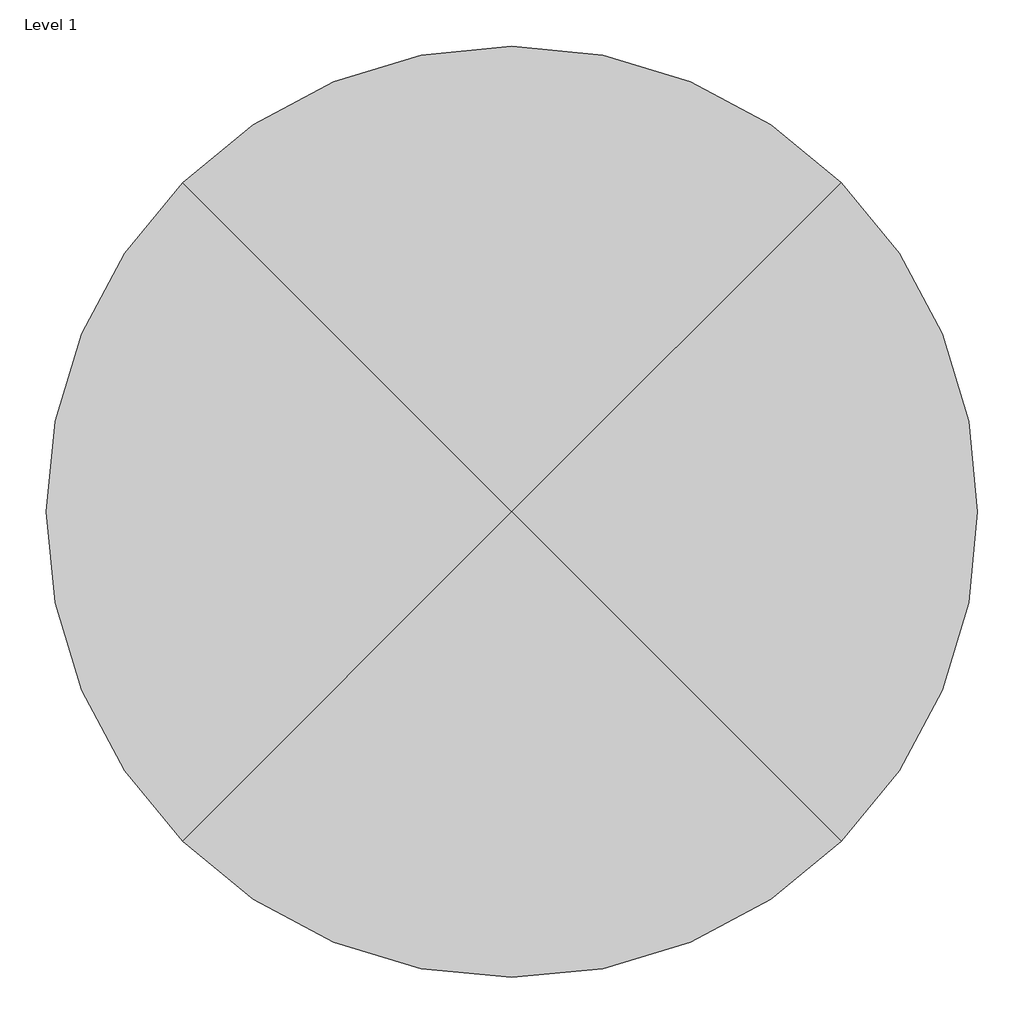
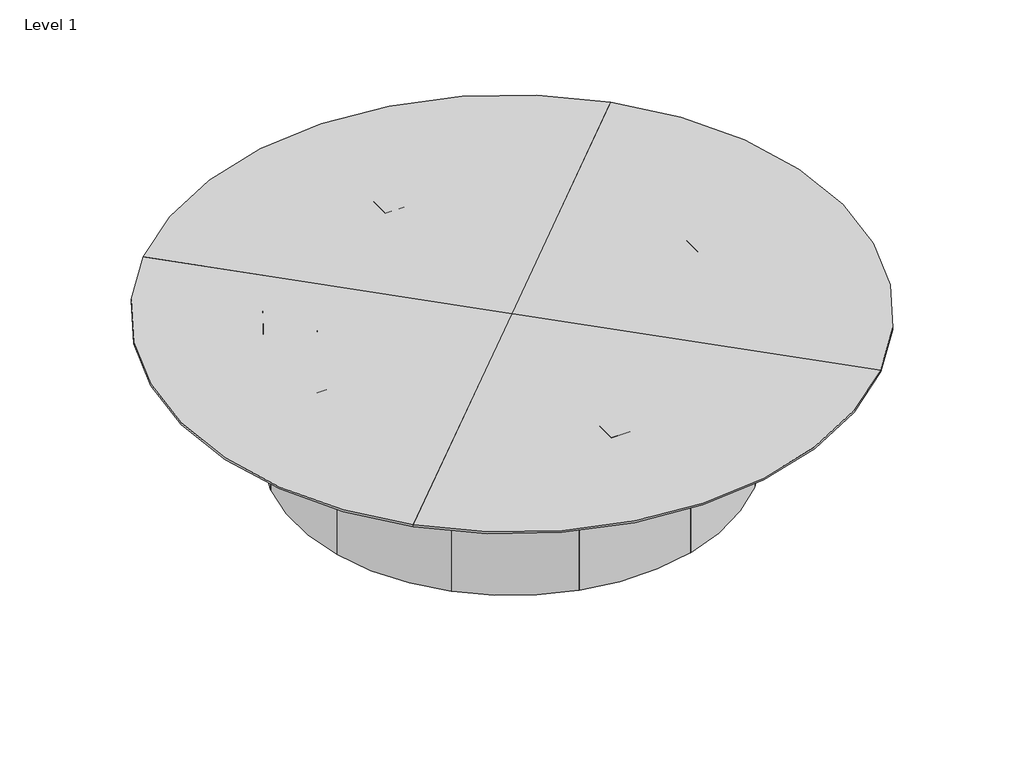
# One storey: 4 proxies.
"""IFC4 building model written with IfcOpenShell, lengths in millimetres."""

from ifc_helpers import new_model, si_unit, origin, place, context, project, spatial, transform, mapped, element, save
from components import generic_models_6417b330

model = new_model("IFC4")

# Units and contexts
model_context = context("Model", 3, world=origin())
ifc_project = project(units=[si_unit("LENGTHUNIT", "METRE", prefix="MILLI")], contexts=[model_context])

# Site, building, storey
site = spatial("IfcSite", under=ifc_project)
building = spatial("IfcBuilding", under=site)
storey = spatial("IfcBuildingStorey", under=building, Name="Level 1", Elevation=0.0)

# Proxies
placement = place(None, origin())
generic_models_shape = generic_models_6417b330(model_context)
element("IfcBuildingElementProxy", 1, Name="VIEWLINE^TABLE 1_4 PC ROUND-QUARTER ASSEMBLY_2", ObjectType="VIEWLINE^TABLE 1_4 PC ROUND-QUARTER ASSEMBLY_2", at=placement, inside=storey, context=model_context, shape_type="MappedRepresentation", body=[
    mapped(generic_models_shape, transform((0.0, 0.0, 711.2), x_axis=(0.7071067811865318, -0.7071067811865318, 0.0), y_axis=(0.0, 0.0, 1.0000000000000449), z_axis=(-0.7071067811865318, -0.7071067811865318, 0.0))),
])
element("IfcBuildingElementProxy", 2, Name="VIEWLINE^TABLE 1_4 PC ROUND-QUARTER ASSEMBLY", ObjectType="VIEWLINE^TABLE 1_4 PC ROUND-QUARTER ASSEMBLY", at=placement, inside=storey, context=model_context, shape_type="MappedRepresentation", body=[
    mapped(generic_models_shape, transform((0.0, 0.0, 711.2), x_axis=(0.7071067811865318, 0.7071067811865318, 0.0), y_axis=(0.0, 0.0, 1.0000000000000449), z_axis=(0.7071067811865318, -0.7071067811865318, 0.0))),
])
element("IfcBuildingElementProxy", 3, Name="VIEWLINE^TABLE 1_4 PC ROUND-QUARTER ASSEMBLY_1", ObjectType="VIEWLINE^TABLE 1_4 PC ROUND-QUARTER ASSEMBLY_1", at=placement, inside=storey, context=model_context, shape_type="MappedRepresentation", body=[
    mapped(generic_models_shape, transform((0.0, 0.0, 711.2), x_axis=(-0.7071067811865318, 0.7071067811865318, 0.0), y_axis=(0.0, 0.0, 1.0000000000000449), z_axis=(0.7071067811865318, 0.7071067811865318, 0.0))),
])
element("IfcBuildingElementProxy", 4, Name="VIEWLINE^TABLE 1_4 PC ROUND-QUARTER ASSEMBLY_1", ObjectType="VIEWLINE^TABLE 1_4 PC ROUND-QUARTER ASSEMBLY_1", at=placement, inside=storey, context=model_context, shape_type="MappedRepresentation", body=[
    mapped(generic_models_shape, transform((0.0, 0.0, 711.2), x_axis=(-0.7071067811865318, -0.7071067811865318, 0.0), y_axis=(0.0, 0.0, 1.0000000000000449), z_axis=(-0.7071067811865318, 0.7071067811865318, 0.0))),
])

save(model, "model.ifc")
